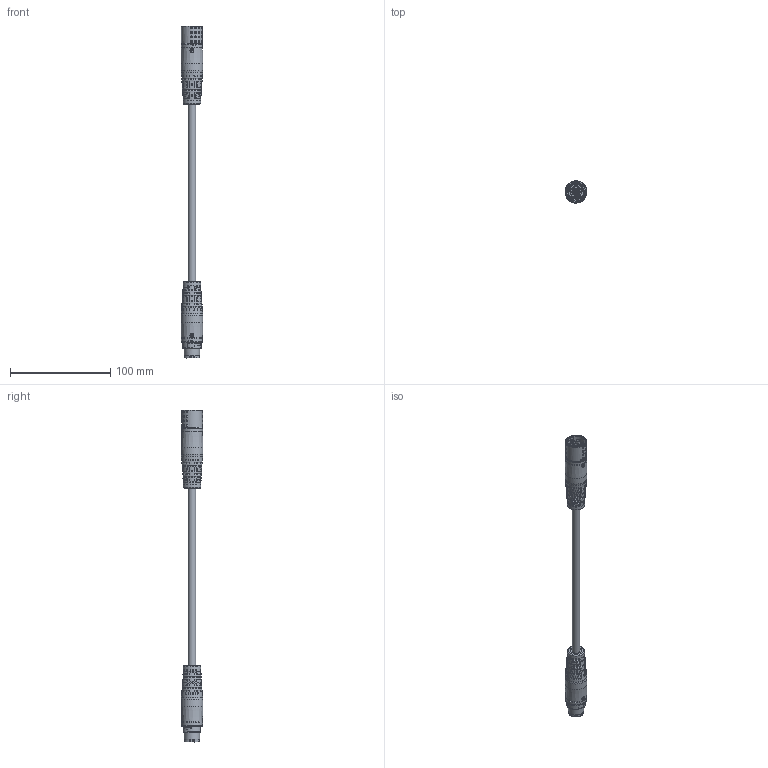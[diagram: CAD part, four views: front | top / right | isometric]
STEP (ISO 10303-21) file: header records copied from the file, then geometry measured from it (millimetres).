
FILE_DESCRIPTION (( 'STEP AP203' ), '1' );
FILE_NAME ('1138000_W-TEC_15K_STI_BU_STEP.STEP', '2023-09-01T05:14:12', ( '' ), ( '' ), 'SwSTEP 2.0', 'SolidWorks 2021', '' );
FILE_SCHEMA (( 'CONFIG_CONTROL_DESIGN' ));
Products named in the file (1): 1138000_W-TEC_15K_STI_BU_STEP
Bounding box: 21.79 x 21.87 x 330.93 mm (x, y, z)
Surface area: 21372.1 mm2 (no closed solid volume)
Topology: 0 solids, 30 shells, 916 faces, 3587 edges, 2508 vertices
Faces by surface type: bspline 385, plane 239, cylinder 224, cone 48, torus 18, sphere 2
Full cylindrical faces by diameter (mm): 1.6 x3, 3.3 x6, 4 x2, 4.2 x3, 4.4 x3, 7.4 x1, 11.1 x3, 15.2 x1, 15.4 x1, 17.384 x2, 18.304 x1, 21.24 x2, 21.72 x2
Entity records: 61540 total; most frequent: CARTESIAN_POINT 37931, ORIENTED_EDGE 5208, EDGE_CURVE 3394, DIRECTION 3381, VERTEX_POINT 2455, B_SPLINE_CURVE_WITH_KNOTS 1628, AXIS2_PLACEMENT_3D 1233, EDGE_LOOP 1097
